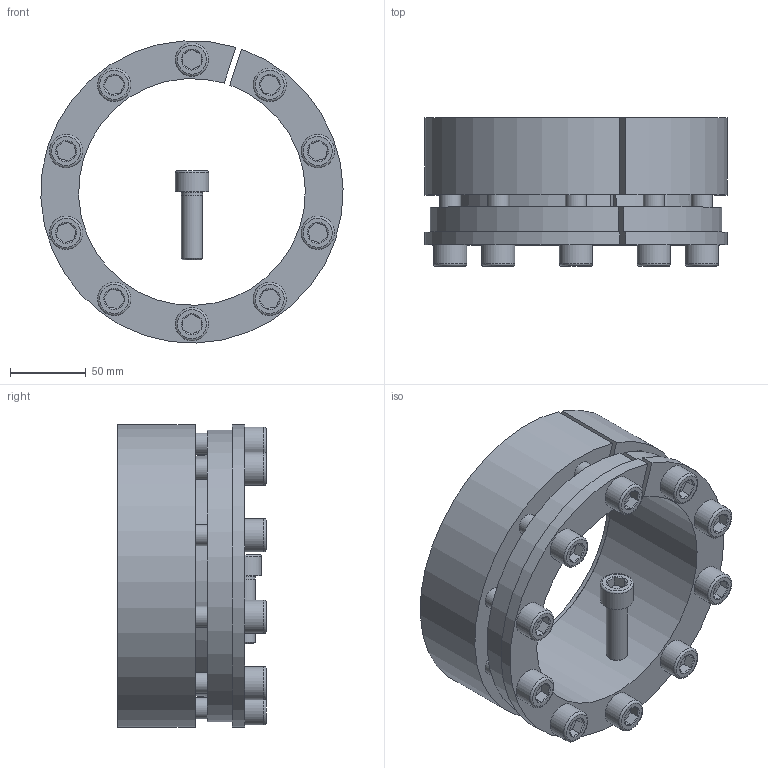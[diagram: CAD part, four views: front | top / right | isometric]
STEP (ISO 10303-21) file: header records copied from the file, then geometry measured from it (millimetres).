
FILE_DESCRIPTION( ( 'Unknown' ), '1' );
FILE_NAME( 'C:/Dokumente und Einstellungen/Sven/Desktop/homepage/cad - homepage/KBS70/KBS 70 - 150 x 200.stp', 'Unknown', ( 'Unknown' ), ( 'Unknown' ), 'XStep 1.0', 'Unknown', ' ' );
FILE_SCHEMA( ( 'automotive_design' ) );
Length unit declared in the file: millimetre
Products named in the file (3): Assem1; KBS 70 - 150 x 200; ISO EN DIN 4762 M14x45
Bounding box: 199.88 x 98 x 199.81 mm (x, y, z)
Volume: 1928146.4 mm3; surface area: 386993.9 mm2
Topology: 13 solids, 13 shells, 343 faces, 703 edges, 430 vertices
Faces by surface type: plane 148, cylinder 92, cone 81, torus 22
Full cylindrical faces by diameter (mm): 12 x11, 14 x62, 22 x11
Entity records: 2002 total; most frequent: CARTESIAN_POINT 339, DIRECTION 312, ORIENTED_EDGE 222, AXIS2_PLACEMENT_3D 140, EDGE_LOOP 130, EDGE_CURVE 111, VERTEX_POINT 87, FACE_OUTER_BOUND 85
